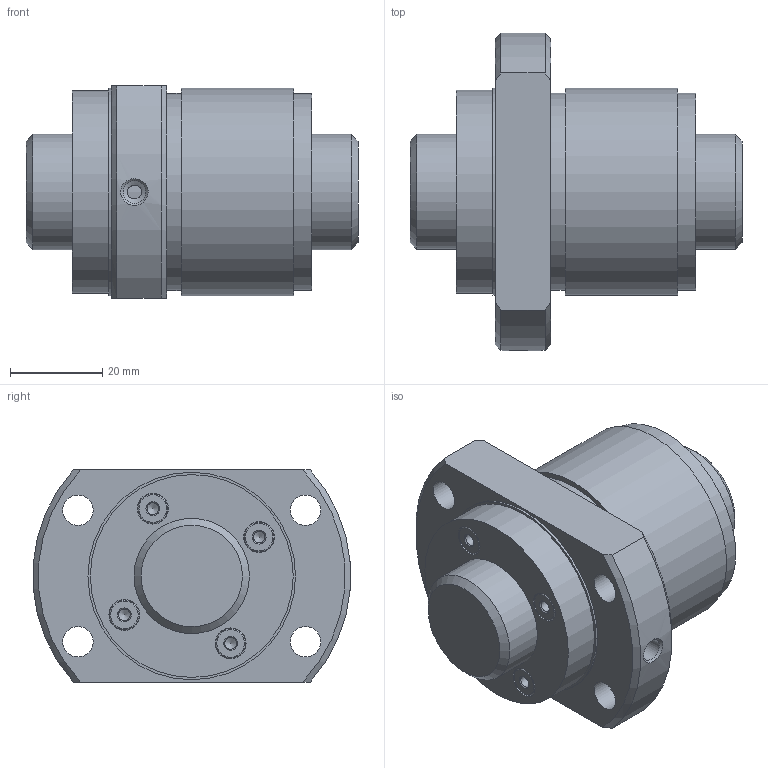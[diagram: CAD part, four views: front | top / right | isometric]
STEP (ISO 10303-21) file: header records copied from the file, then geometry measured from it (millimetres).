
FILE_DESCRIPTION(/* description */ ('STEP AP203'),/* implementation_level */ '2;1');
FILE_NAME(/* name */ 'WGF2550-1G1+72LC3_0_13_0_0',/* time_stamp */ '2025-01-16T06:26:22+01:00',/* author */ ('License CC BY-ND 4.0'),/* organization */ ('CADENAS'),/* preprocessor_version */ 'ST-DEVELOPER v19.3',/* originating_system */ 'PARTsolutions',/* authorisation */ ' ');
FILE_SCHEMA (('CONFIG_CONTROL_DESIGN'));
Length unit declared in the file: millimetre
Products named in the file (3): WGF2550-1G1+72LC3_0_13_0_0; 0130WGF2550-10Shaft; RR0130WGF2550-1Nut
Assembly tree (2 placements, depth 2):
  WGF2550-1G1+72LC3_0_13_0_0
    0130WGF2550-10Shaft
    RR0130WGF2550-1Nut
Bounding box: 72 x 68.89 x 46 mm (x, y, z)
Volume: 104307.7 mm3; surface area: 25765.4 mm2
Topology: 2 solids, 2 shells, 65 faces, 132 edges, 84 vertices
Faces by surface type: cylinder 26, plane 19, cone 16, torus 4
Full cylindrical faces by diameter (mm): 2.5 x4, 4.917 x1, 6.5 x4, 6.6 x4, 6.7 x4, 25 x2, 42.75 x2, 44 x1, 45 x2
Entity records: 1583 total; most frequent: DIRECTION 276, CARTESIAN_POINT 276, ORIENTED_EDGE 168, FACE_BOUND 134, AXIS2_PLACEMENT_3D 134, EDGE_LOOP 130, EDGE_CURVE 84, VERTEX_POINT 80
